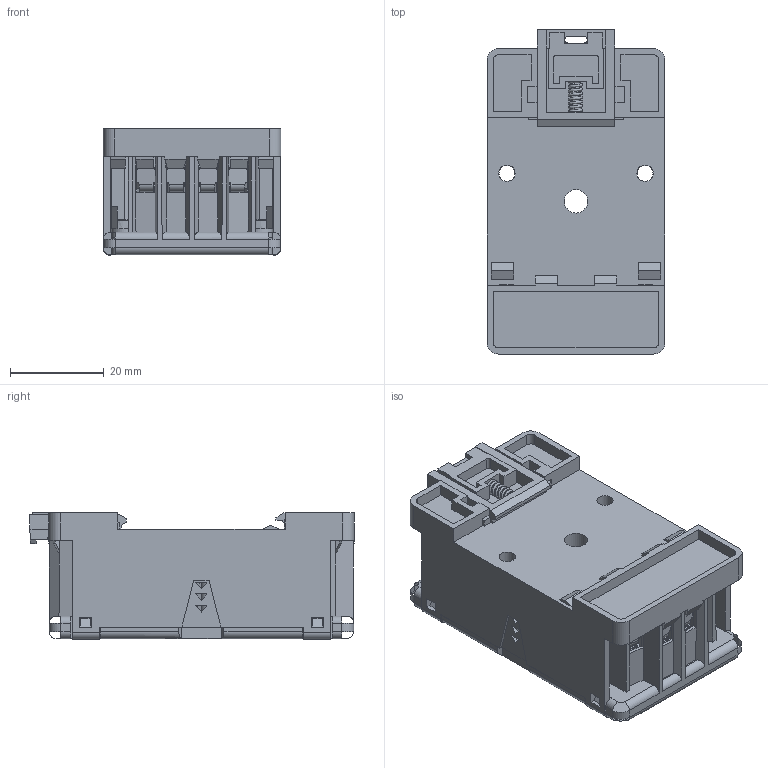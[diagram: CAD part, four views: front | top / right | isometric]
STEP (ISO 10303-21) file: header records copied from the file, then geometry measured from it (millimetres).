
FILE_DESCRIPTION((''),'2; 1');
FILE_NAME('','2026-03-27T11:08:43',(''),(''),'CST STEP Exporter V1.0','Unknown','');
FILE_SCHEMA(('CONFIG_CONTROL_DESIGN'));
Length unit declared in the file: metre
Assembly tree (90 placements, depth 2):
  (unnamed)
    (unnamed)
    (unnamed)
    (unnamed)
    (unnamed)
    (unnamed)
    (unnamed)
    (unnamed)
    (unnamed)
    (unnamed)
    (unnamed)
    (unnamed)
    (unnamed)
    (unnamed)
    (unnamed)
    (unnamed)
    (unnamed)
    (unnamed)
    (unnamed)
    (unnamed)
    (unnamed)
    (unnamed)
    (unnamed)
    (unnamed)
    (unnamed)
    (unnamed)
    (unnamed)
    (unnamed)
    (unnamed)
    (unnamed)
    (unnamed)
    (unnamed)
    (unnamed)
    (unnamed)
    (unnamed)
    (unnamed)
    (unnamed)
    (unnamed)
    (unnamed)
    (unnamed)
    (unnamed)
    (unnamed)
    (unnamed)
    (unnamed)
    (unnamed)
    (unnamed)
    (unnamed)
    (unnamed)
    (unnamed)
    (unnamed)
    (unnamed)
    (unnamed)
    (unnamed)
    (unnamed)
    (unnamed)
    (unnamed)
    (unnamed)
    (unnamed)
    (unnamed)
    (unnamed)
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Bounding box: 38 x 69.2 x 27 mm (x, y, z)
Surface area: 43040.3 mm2 (no closed solid volume)
Topology: 0 solids, 90 shells, 668 faces, 2940 edges, 2321 vertices
Faces by surface type: plane 514, cylinder 119, torus 21, cone 13, bspline 1
Full cylindrical faces by diameter (mm): 2 x1, 3 x11, 3.4 x2, 3.5 x2, 4.4 x11, 5 x1, 5.4 x11
Entity records: 36725 total; most frequent: CARTESIAN_POINT 6958, DIRECTION 4725, ORIENTED_EDGE 4033, EDGE_CURVE 2847, VERTEX_POINT 2285, VECTOR 2123, LINE 2123, AXIS2_PLACEMENT_3D 1301
